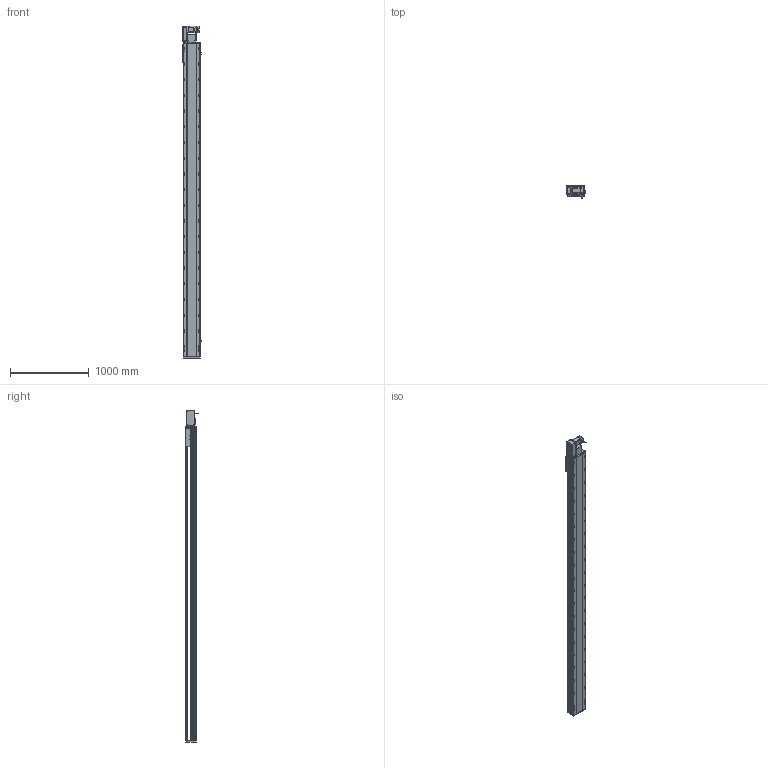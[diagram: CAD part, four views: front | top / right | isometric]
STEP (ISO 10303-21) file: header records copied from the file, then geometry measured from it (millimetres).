
FILE_DESCRIPTION (( 'STEP AP214' ), '1' );
FILE_NAME ('RTB22S-XX-3650-L-M75-C4.STEP', '2025-12-12T03:36:53', ( '' ), ( '' ), 'SwSTEP 2.0', 'SolidWorks 2018', '' );
FILE_SCHEMA (( 'AUTOMOTIVE_DESIGN' ));
Length unit declared in the file: millimetre
Products named in the file (14): RTB22S-XX-3650-L-M75-C4; RTB22S-GY-018P^RTB22S-L-々湍釱蚾饜_RTB22S-XX-XX-L-M75-C4; RTB22S-GY-008-M75--萇儂啣^RTB22S-L-々湍釱蚾饜_RTB22S-XX-XX-L-M75-C4; RTB22S-GY-005P^RTB22S-L-々湍釱蚾饜_RTB22S-XX-XX-L-M75-C4; RTH22-GY-013外置感应片^RTB22S-XX-XX-L-M75-C4; OMRON EE-SX672 传感器^RTB22S-XX-XX-L-M75-C4; RTB22S-L-011菁釱^RTB22S-XX-XX-L-M75-C4; RTB22S-L-々湍釱蚾饜^RTB22S-XX-XX-L-M75-C4; RTB22S-GY-001耜裔^RTB22S-XX-XX-L-M75-C4; RTB22S-GY-007奻裔^RTB22S-XX-XX-L-M75-C4; 750W萇儂^RTB22S-XX-XX-L-M75-C4; RTB22S-GY-017P^RTB22S-L-々湍釱蚾饜_RTB22S-XX-XX-L-M75-C4; RTB22S-GY-014--々湍釱^RTB22S-L-々湍釱蚾饜_RTB22S-XX-XX-L-M75-C4; RTB22S-L-004賑釱^RTB22S-XX-XX-L-M75-C4
Assembly tree (16 placements, depth 3):
  RTB22S-XX-3650-L-M75-C4
    RTB22S-L-011菁釱^RTB22S-XX-XX-L-M75-C4
    750W萇儂^RTB22S-XX-XX-L-M75-C4
    RTB22S-L-004賑釱^RTB22S-XX-XX-L-M75-C4
    OMRON EE-SX672 传感器^RTB22S-XX-XX-L-M75-C4  x3
    RTH22-GY-013外置感应片^RTB22S-XX-XX-L-M75-C4
    RTB22S-GY-007奻裔^RTB22S-XX-XX-L-M75-C4
    RTB22S-GY-001耜裔^RTB22S-XX-XX-L-M75-C4
    RTB22S-L-々湍釱蚾饜^RTB22S-XX-XX-L-M75-C4
      RTB22S-GY-014--々湍釱^RTB22S-L-々湍釱蚾饜_RTB22S-XX-XX-L-M75-C4
      RTB22S-GY-017P^RTB22S-L-々湍釱蚾饜_RTB22S-XX-XX-L-M75-C4  x2
      RTB22S-GY-005P^RTB22S-L-々湍釱蚾饜_RTB22S-XX-XX-L-M75-C4
      RTB22S-GY-008-M75--萇儂啣^RTB22S-L-々湍釱蚾饜_RTB22S-XX-XX-L-M75-C4
      RTB22S-GY-018P^RTB22S-L-々湍釱蚾饜_RTB22S-XX-XX-L-M75-C4
Bounding box: 238.5 x 162.7 x 4229 mm (x, y, z)
Volume: 52157379.4 mm3; surface area: 5304891.6 mm2
Topology: 15 solids, 15 shells, 2217 faces, 6036 edges, 3842 vertices
Faces by surface type: plane 941, cylinder 778, bspline 296, cone 190, sphere 8, torus 4
Entity records: 61322 total; most frequent: CARTESIAN_POINT 17096, ORIENTED_EDGE 8756, DIRECTION 8652, EDGE_CURVE 4378, AXIS2_PLACEMENT_3D 3138, VERTEX_POINT 2846, VECTOR 2376, LINE 2376
